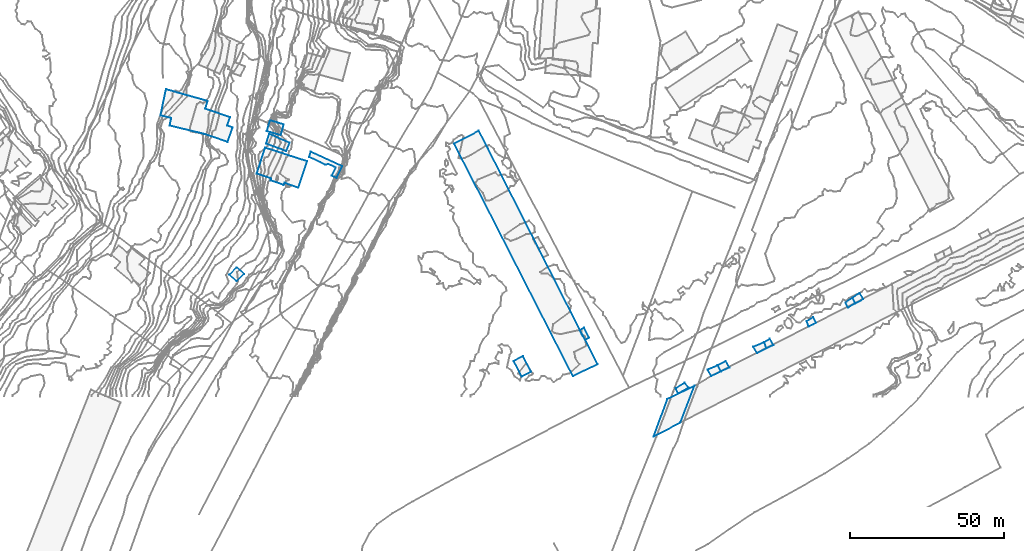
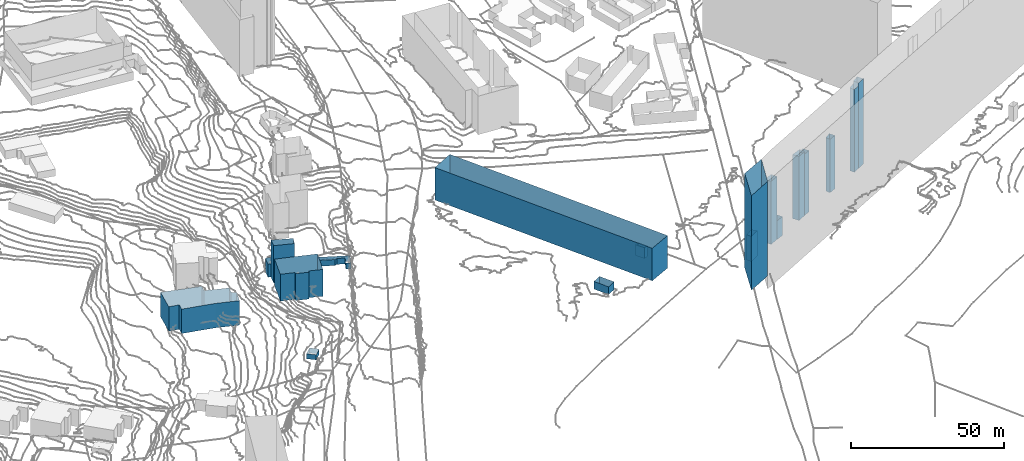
# Not in any storey, part 35 of 419: 18 walls.
"""IFC2X3 model written with IfcOpenShell, lengths in metres."""

from ifc_helpers import new_model, si_unit, frame, origin_with_axes, place, context, subcontext, project, faceted_brep, element, save


model = new_model("IFC2X3")

# Units and contexts
model_context = context("Model", 3, precision=1e-05, world=origin_with_axes())
body_context = subcontext(model_context, "Body", "Model", "MODEL_VIEW")
ifc_project = project(units=[si_unit("AREAUNIT", "SQUARE_METRE"), si_unit("LENGTHUNIT", "METRE")], contexts=[model_context])

# Walls
wall_1_placement = place(None, frame((775.4920204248, 16.0976909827, 70.1381985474), z_axis=(0.0, 0.0, 1.0), x_axis=(1.0, 0.0, 0.0)))
element("IfcWall", 1, at=wall_1_placement, Name="Mur 0", context=body_context, shape_type="Brep", body=[
    faceted_brep([(3.0, -0.9000000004, 24.5618014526), (0.7, -2.0, 24.5618014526), (3.0, -0.9000000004, 0.0), (0.7, -2.0, 0.0), (1.7999999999, 1.0999999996, 24.5618014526), (1.7999999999, 1.0999999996, 0.0), (0.0, 0.0, 24.5618014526), (0.0, 0.0, 0.0)], [[[0, 1, 2]], [[2, 1, 3]], [[4, 0, 5]], [[5, 0, 2]], [[1, 6, 3]], [[3, 6, 7]], [[6, 4, 7]], [[7, 4, 5]]]),
])
wall_2_placement = place(None, frame((757.0920204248, 7.1976909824, 70.2716003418), z_axis=(0.0, 0.0, 1.0), x_axis=(1.0, 0.0, 0.0)))
element("IfcWall", 2, at=wall_2_placement, Name="Mur 0", context=body_context, shape_type="Brep", body=[
    faceted_brep([(4.3, -0.5999999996, 25.2283996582), (1.2, -2.0999999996, 25.2283996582), (4.3, -0.5999999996, 0.0), (1.2, -2.0999999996, 0.0), (3.3, 1.4000000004, 25.2283996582), (3.3, 1.4000000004, 0.0), (0.0, 0.0, 25.2283996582), (0.0, 0.0, 0.0)], [[[0, 1, 2]], [[2, 1, 3]], [[4, 0, 5]], [[5, 0, 2]], [[1, 6, 3]], [[3, 6, 7]], [[6, 4, 7]], [[7, 4, 5]]]),
])
wall_3_placement = place(None, frame((694.0920204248, 9.9976909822, 71.9270027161), z_axis=(0.0, 0.0, 1.0), x_axis=(1.0, 0.0, 0.0)))
element("IfcWall", 3, at=wall_3_placement, Name="Mur 0", context=body_context, shape_type="Brep", body=[
    faceted_brep([(5.6, -3.5, 3.0729972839), (2.6, -5.0999999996, 3.0729972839), (5.6, -3.5, 0.0), (2.6, -5.0999999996, 0.0), (3.0, 1.6000000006, 3.0729972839), (3.0, 1.6000000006, 0.0), (0.0, 0.0, 3.0729972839), (0.0, 0.0, 0.0)], [[[0, 1, 2]], [[2, 1, 3]], [[4, 0, 5]], [[5, 0, 2]], [[1, 6, 3]], [[3, 6, 7]], [[6, 4, 7]], [[7, 4, 5]]]),
])
wall_4_placement = place(None, frame((627.4920204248, 76.2976909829, 64.1379997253), z_axis=(0.0, 0.0, 1.0), x_axis=(1.0, 0.0, 0.0)))
element("IfcWall", 4, at=wall_4_placement, Name="Mur 0", context=body_context, shape_type="Brep", body=[
    faceted_brep([(10.7999999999, -3.0, 2.3620002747), (8.9, -6.8000000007, 2.3620002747), (10.7999999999, -3.0, 0.0), (8.9, -6.8000000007, 0.0), (0.6, 1.6999999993, 2.3620002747), (0.6, 1.6999999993, 0.0), (0.0, 0.0, 2.3620002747), (0.0, 0.0, 0.0), (5.2999999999, -2.5, 2.3620002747), (5.2999999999, -2.5, 0.0), (6.2, -2.3000000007, 2.3620002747), (6.2, -2.3000000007, 0.0), (8.7, -3.4000000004, 2.3620002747), (8.7, -3.4000000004, 0.0), (7.4, -6.1000000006, 2.3620002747), (7.4, -6.1000000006, 0.0)], [[[0, 1, 2]], [[2, 1, 3]], [[4, 0, 5]], [[5, 0, 2]], [[6, 4, 7]], [[7, 4, 5]], [[8, 6, 9]], [[9, 6, 7]], [[10, 8, 11]], [[11, 8, 9]], [[12, 10, 13]], [[13, 10, 11]], [[1, 14, 3]], [[3, 14, 15]], [[14, 12, 15]], [[15, 12, 13]]]),
])
wall_5_placement = place(None, frame((579.1920204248, 89.7976909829, 46.9288002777), z_axis=(0.0, 0.0, 1.0), x_axis=(1.0, 0.0, 0.0)))
element("IfcWall", 5, at=wall_5_placement, Name="Mur 0", context=body_context, shape_type="Brep", body=[
    faceted_brep([(14.2000000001, -6.0, 9.7711997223), (3.0, -3.3000000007, 9.7711997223), (14.2000000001, -6.0, 0.0), (3.0, -3.3000000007, 0.0), (21.8, -8.6000000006, 9.7711997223), (21.8, -8.6000000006, 0.0), (23.4, -3.9000000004, 9.7711997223), (23.4, -3.9000000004, 0.0), (21.7000000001, -3.3000000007, 9.7711997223), (21.7000000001, -3.3000000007, 0.0), (22.6, -0.6000000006, 9.7711997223), (22.6, -0.6000000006, 0.0), (14.6, 2.1999999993, 9.7711997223), (14.6, 2.1999999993, 0.0), (15.3, 4.6999999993, 9.7711997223), (15.3, 4.6999999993, 0.0), (1.8, 8.5, 9.7711997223), (1.8, 8.5, 0.0), (0.0, 0.0, 9.7711997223), (0.0, 0.0, 0.0), (3.5, -0.8000000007, 9.7711997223), (3.5, -0.8000000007, 0.0)], [[[0, 1, 2]], [[2, 1, 3]], [[4, 0, 5]], [[5, 0, 2]], [[6, 4, 7]], [[7, 4, 5]], [[8, 6, 9]], [[9, 6, 7]], [[10, 8, 11]], [[11, 8, 9]], [[12, 10, 13]], [[13, 10, 11]], [[14, 12, 15]], [[15, 12, 13]], [[16, 14, 17]], [[17, 14, 15]], [[18, 16, 19]], [[19, 16, 17]], [[1, 20, 3]], [[3, 20, 21]], [[20, 18, 21]], [[21, 18, 19]]]),
])
wall_6_placement = place(None, frame((746.6920204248, 1.0976909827, 70.5879999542), z_axis=(0.0, 0.0, 1.0), x_axis=(1.0, 0.0, 0.0)))
element("IfcWall", 6, at=wall_6_placement, Name="Mur 0", context=body_context, shape_type="Brep", body=[
    faceted_brep([(0.8, -1.7000000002, 10.1120000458), (0.0, 0.0, 10.1120000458), (0.8, -1.7000000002, 0.0), (0.0, 0.0, 0.0), (4.2000000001, 0.2000000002, 10.1120000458), (4.2000000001, 0.2000000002, 0.0), (2.9, 1.7999999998, 10.1120000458), (2.9, 1.7999999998, 0.0)], [[[0, 1, 2]], [[2, 1, 3]], [[4, 0, 5]], [[5, 0, 2]], [[1, 6, 3]], [[3, 6, 7]], [[6, 4, 7]], [[7, 4, 5]]]),
])
wall_7_placement = place(None, frame((760.3920204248, 8.5976909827, 70.1712017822), z_axis=(0.0, 0.0, 1.0), x_axis=(1.0, 0.0, 0.0)))
element("IfcWall", 7, at=wall_7_placement, Name="Mur 0", context=body_context, shape_type="Brep", body=[
    faceted_brep([(3.7999999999, -0.7000000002, 7.5287982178), (1.0, -2.0, 7.5287982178), (3.7999999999, -0.7000000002, 0.0), (1.0, -2.0, 0.0), (2.6, 1.3999999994, 7.5287982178), (2.6, 1.3999999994, 0.0), (0.0, 0.0, 7.5287982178), (0.0, 0.0, 0.0)], [[[0, 1, 2]], [[2, 1, 3]], [[4, 0, 5]], [[5, 0, 2]], [[1, 6, 3]], [[3, 6, 7]], [[6, 4, 7]], [[7, 4, 5]]]),
])
wall_8_placement = place(None, frame((610.4920204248, 70.8976909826, 59.464500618), z_axis=(0.0, 0.0, 1.0), x_axis=(1.0, 0.0, 0.0)))
element("IfcWall", 8, at=wall_8_placement, Name="Mur 0", context=body_context, shape_type="Brep", body=[
    faceted_brep([(0.0, 0.0, 10.735499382), (2.7, 8.4000000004, 10.735499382), (0.0, 0.0, 0.0), (2.7, 8.4000000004, 0.0), (4.7, -1.5999999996, 10.735499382), (4.7, -1.5999999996, 0.0), (4.5, -2.2000000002, 10.735499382), (4.5, -2.2000000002, 0.0), (8.7999999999, -3.7000000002, 10.735499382), (8.7999999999, -3.7000000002, 0.0), (9.0, -3.0, 10.735499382), (9.0, -3.0, 0.0), (13.5, -4.5999999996, 10.735499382), (13.5, -4.5999999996, 0.0), (16.4, 4.0, 10.735499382), (16.4, 4.0, 0.0)], [[[0, 1, 2]], [[2, 1, 3]], [[4, 0, 5]], [[5, 0, 2]], [[6, 4, 7]], [[7, 4, 5]], [[8, 6, 9]], [[9, 6, 7]], [[10, 8, 11]], [[11, 8, 9]], [[12, 10, 13]], [[13, 10, 11]], [[1, 14, 3]], [[3, 14, 15]], [[14, 12, 15]], [[15, 12, 13]]]),
])
wall_9_placement = place(None, frame((601.4920204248, 37.9976909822, 59.4713992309), z_axis=(0.0, 0.0, 1.0), x_axis=(1.0, 0.0, 0.0)))
element("IfcWall", 9, at=wall_9_placement, Name="Mur 0", context=body_context, shape_type="Brep", body=[
    faceted_brep([(4.9, 0.3000000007, 2.0286007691), (2.4, -2.0999999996, 2.0286007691), (4.9, 0.3000000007, 0.0), (2.4, -2.0999999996, 0.0), (2.5, 2.4000000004, 2.0286007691), (2.5, 2.4000000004, 0.0), (0.0, 0.0, 2.0286007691), (0.0, 0.0, 0.0)], [[[0, 1, 2]], [[2, 1, 3]], [[4, 0, 5]], [[5, 0, 2]], [[1, 6, 3]], [[3, 6, 7]], [[6, 4, 7]], [[7, 4, 5]]]),
])
wall_10_placement = place(None, frame((613.7920204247, 84.6976909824, 59.4539994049), z_axis=(0.0, 0.0, 1.0), x_axis=(1.0, 0.0, 0.0)))
element("IfcWall", 10, at=wall_10_placement, Name="Mur 0", context=body_context, shape_type="Brep", body=[
    faceted_brep([(0.0, 0.0, 5.2460005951), (1.0, 3.5, 5.2460005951), (0.0, 0.0, 0.0), (1.0, 3.5, 0.0), (4.5, -1.2999999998, 5.2460005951), (4.5, -1.2999999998, 0.0), (5.5, 2.2000000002, 5.2460005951), (5.5, 2.2000000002, 0.0)], [[[0, 1, 2]], [[2, 1, 3]], [[4, 0, 5]], [[5, 0, 2]], [[1, 6, 3]], [[3, 6, 7]], [[6, 4, 7]], [[7, 4, 5]]]),
])
wall_11_placement = place(None, frame((613.5920204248, 80.5976909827, 59.6855998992), z_axis=(0.0, 0.0, 1.0), x_axis=(1.0, 0.0, 0.0)))
element("IfcWall", 11, at=wall_11_placement, Name="Mur 0", context=body_context, shape_type="Brep", body=[
    faceted_brep([(0.0, 0.0, 15.0144001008), (0.9, 3.2000000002, 15.0144001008), (0.0, 0.0, 0.0), (0.9, 3.2000000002, 0.0), (6.5, -2.4000000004, 15.0144001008), (6.5, -2.4000000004, 0.0), (7.6, 0.2999999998, 15.0144001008), (7.6, 0.2999999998, 0.0)], [[[0, 1, 2]], [[2, 1, 3]], [[4, 0, 5]], [[5, 0, 2]], [[1, 6, 3]], [[3, 6, 7]], [[6, 4, 7]], [[7, 4, 5]]]),
])
wall_12_placement = place(None, frame((804.1920204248, 30.5976909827, 70.0514993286), z_axis=(0.0, 0.0, 1.0), x_axis=(1.0, 0.0, 0.0)))
element("IfcWall", 12, at=wall_12_placement, Name="Mur 0", context=body_context, shape_type="Brep", body=[
    faceted_brep([(2.3, 1.5, 34.1485006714), (3.5, -0.5, 34.1485006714), (2.3, 1.5, 0.0), (3.5, -0.5, 0.0), (0.0, 0.0, 34.1485006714), (0.0, 0.0, 0.0), (0.9, -1.9000000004, 34.1485006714), (0.9, -1.9000000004, 0.0)], [[[0, 1, 2]], [[2, 1, 3]], [[4, 0, 5]], [[5, 0, 2]], [[1, 6, 3]], [[3, 6, 7]], [[6, 4, 7]], [[7, 4, 5]]]),
])
wall_13_placement = place(None, frame((801.8920204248, 28.9976909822, 70.0737995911), z_axis=(0.0, 0.0, 1.0), x_axis=(1.0, 0.0, 0.0)))
element("IfcWall", 13, at=wall_13_placement, Name="Mur 0", context=body_context, shape_type="Brep", body=[
    faceted_brep([(2.2999999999, 1.6000000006, 33.1262004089), (3.2, -0.2999999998, 33.1262004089), (2.2999999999, 1.6000000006, 0.0), (3.2, -0.2999999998, 0.0), (0.0, 0.0, 33.1262004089), (0.0, 0.0, 0.0), (0.7999999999, -1.5999999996, 33.1262004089), (0.7999999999, -1.5999999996, 0.0)], [[[0, 1, 2]], [[2, 1, 3]], [[4, 0, 5]], [[5, 0, 2]], [[1, 6, 3]], [[3, 6, 7]], [[6, 4, 7]], [[7, 4, 5]]]),
])
wall_14_placement = place(None, frame((789.2920204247, 22.8976909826, 70.1088000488), z_axis=(0.0, 0.0, 1.0), x_axis=(1.0, 0.0, 0.0)))
element("IfcWall", 14, at=wall_14_placement, Name="Mur 0", context=body_context, shape_type="Brep", body=[
    faceted_brep([(3.1000000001, -0.5, 21.3911999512), (0.6000000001, -1.7000000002, 21.3911999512), (3.1000000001, -0.5, 0.0), (0.6000000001, -1.7000000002, 0.0), (2.1000000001, 1.2999999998, 21.3911999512), (2.1000000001, 1.2999999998, 0.0), (0.0, 0.0, 21.3911999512), (0.0, 0.0, 0.0)], [[[0, 1, 2]], [[2, 1, 3]], [[4, 0, 5]], [[5, 0, 2]], [[1, 6, 3]], [[3, 6, 7]], [[6, 4, 7]], [[7, 4, 5]]]),
])
wall_15_placement = place(None, frame((715.4920204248, 19.9976909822, 71.8315977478), z_axis=(0.0, 0.0, 1.0), x_axis=(1.0, 0.0, 0.0)))
element("IfcWall", 15, at=wall_15_placement, Name="Mur 0", context=body_context, shape_type="Brep", body=[
    faceted_brep([(1.4, 0.8000000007, 4.3684022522), (3.1, -2.5, 4.3684022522), (1.4, 0.8000000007, 0.0), (3.1, -2.5, 0.0), (0.0, 0.0, 4.3684022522), (0.0, 0.0, 0.0), (1.7, -3.0999999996, 4.3684022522), (1.7, -3.0999999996, 0.0)], [[[0, 1, 2]], [[2, 1, 3]], [[4, 0, 5]], [[5, 0, 2]], [[1, 6, 3]], [[3, 6, 7]], [[6, 4, 7]], [[7, 4, 5]]]),
])
wall_16_placement = place(None, frame((771.8920204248, 14.5976909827, 70.1153973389), z_axis=(0.0, 0.0, 1.0), x_axis=(1.0, 0.0, 0.0)))
element("IfcWall", 16, at=wall_16_placement, Name="Mur 0", context=body_context, shape_type="Brep", body=[
    faceted_brep([(3.6, 1.5, 25.5846026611), (4.2999999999, -0.5, 25.5846026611), (3.6, 1.5, 0.0), (4.2999999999, -0.5, 0.0), (0.0, 0.0, 25.5846026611), (0.0, 0.0, 0.0), (1.2999999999, -2.0, 25.5846026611), (1.2999999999, -2.0, 0.0)], [[[0, 1, 2]], [[2, 1, 3]], [[4, 0, 5]], [[5, 0, 2]], [[1, 6, 3]], [[3, 6, 7]], [[6, 4, 7]], [[7, 4, 5]]]),
])
wall_17_placement = place(None, frame((674.6920204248, 80.6976909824, 71.4930007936), z_axis=(0.0, 0.0, 1.0), x_axis=(1.0, 0.0, 0.0)))
element("IfcWall", 17, at=wall_17_placement, Name="Mur 0", context=body_context, shape_type="Brep", body=[
    faceted_brep([(8.0, 4.1000000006, 13.0069992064), (11.0, -1.7000000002, 13.0069992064), (8.0, 4.1000000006, 0.0), (11.0, -1.7000000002, 0.0), (0.0, 0.0, 13.0069992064), (0.0, 0.0, 0.0), (38.6, -75.5999999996, 13.0069992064), (38.6, -75.5999999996, 0.0), (46.6, -71.7999999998, 13.0069992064), (46.6, -71.7999999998, 0.0)], [[[0, 1, 2]], [[2, 1, 3]], [[4, 0, 5]], [[5, 0, 2]], [[6, 4, 7]], [[7, 4, 5]], [[1, 8, 3]], [[3, 8, 9]], [[8, 6, 9]], [[9, 6, 7]]]),
])
wall_18_placement = place(None, frame((739.4920204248, -14.6023090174, 70.4319984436), z_axis=(0.0, 0.0, 1.0), x_axis=(1.0, 0.0, 0.0)))
element("IfcWall", 18, at=wall_18_placement, Name="Mur 0", context=body_context, shape_type="Brep", body=[
    faceted_brep([(4.5, 12.2000000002, 37.8680015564), (13.2999999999, 16.5, 37.8680015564), (4.5, 12.2000000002, 0.0), (13.2999999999, 16.5, 0.0), (0.0, 0.0, 37.8680015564), (0.0, 0.0, 0.0), (8.7, 4.5, 37.8680015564), (8.7, 4.5, 0.0)], [[[0, 1, 2]], [[2, 1, 3]], [[4, 0, 5]], [[5, 0, 2]], [[1, 6, 3]], [[3, 6, 7]], [[6, 4, 7]], [[7, 4, 5]]]),
])

save(model, "model.ifc")
